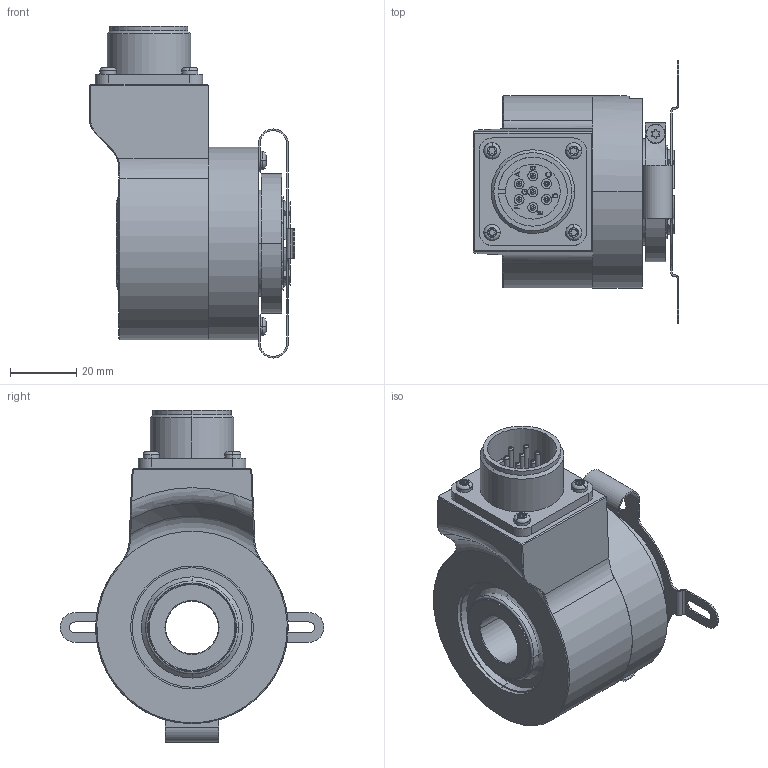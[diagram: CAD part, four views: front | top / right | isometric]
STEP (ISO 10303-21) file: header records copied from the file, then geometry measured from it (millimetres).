
FILE_DESCRIPTION (( 'STEP AP203' ), '1' );
FILE_NAME ('K58I.OXX.XXXXX.XH2654A.XXRCH.step', '2025-12-03T09:55:29', ( '' ), ( '' ), 'SwSTEP 2.0', 'SolidWorks 2021', '' );
FILE_SCHEMA (( 'CONFIG_CONTROL_DESIGN' ));
Length unit declared in the file: millimetre
Products named in the file (1): K58I.OXX.XXXXX.XH2654A.XXRCH
Bounding box: 62 x 79.4 x 100 mm (x, y, z)
Volume: 143138.1 mm3; surface area: 57005.8 mm2
Topology: 8 solids, 8 shells, 743 faces, 1900 edges, 1211 vertices
Faces by surface type: cylinder 305, plane 275, cone 65, bspline 58, torus 40
Entity records: 27203 total; most frequent: CARTESIAN_POINT 9211, ORIENTED_EDGE 3776, DIRECTION 3724, EDGE_CURVE 1888, AXIS2_PLACEMENT_3D 1414, VERTEX_POINT 1211, LINE 896, VECTOR 896
